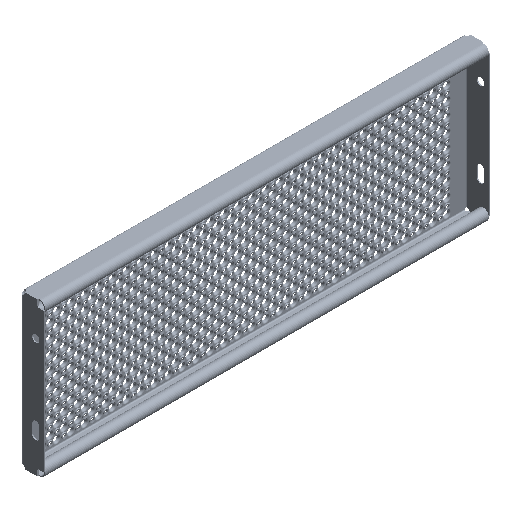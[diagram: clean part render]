
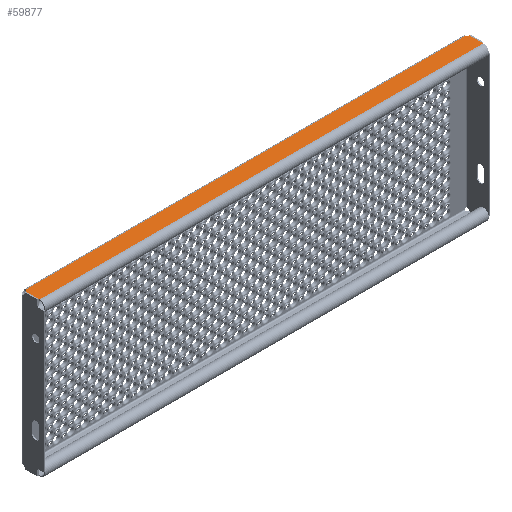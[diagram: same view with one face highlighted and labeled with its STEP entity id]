
A CAD part, isometric view. The second image highlights one B-rep face of the part: STEP entity #59877.
In plain terms, the highlighted planar face has unit normal (0, 0, 1).
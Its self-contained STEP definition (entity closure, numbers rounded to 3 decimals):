
#11545 = VERTEX_POINT ( 'NONE', #166480 ) ;
#37825 = CARTESIAN_POINT ( 'NONE',  ( -399., -2.288, 137.5 ) ) ;
#38327 = VERTEX_POINT ( 'NONE', #69103 ) ;
#47974 = VERTEX_POINT ( 'NONE', #81698 ) ;
#49693 = LINE ( 'NONE', #75837, #177074 ) ;
#59877 = ADVANCED_FACE ( 'NONE', ( #372692 ), #374631, .T. ) ;
#69103 = CARTESIAN_POINT ( 'NONE',  ( -397.99, -31.998, 137.5 ) ) ;
#75837 = CARTESIAN_POINT ( 'NONE',  ( -397.99, -31.998, 137.5 ) ) ;
#81698 = CARTESIAN_POINT ( 'NONE',  ( 394.302, -4., 137.5 ) ) ;
#87068 = VECTOR ( 'NONE', #380316, 1000. ) ;
#92039 = CARTESIAN_POINT ( 'NONE',  ( 397.99, -31.998, 137.5 ) ) ;
#99536 = EDGE_CURVE ( 'NONE', #11545, #47974, #310688, .T. ) ;
#106536 = EDGE_CURVE ( 'NONE', #38327, #310360, #49693, .T. ) ;
#125588 = ORIENTED_EDGE ( 'NONE', *, *, #233313, .F. ) ;
#133787 = CARTESIAN_POINT ( 'NONE',  ( 399., -2.288, 137.5 ) ) ;
#133964 = DIRECTION ( 'NONE',  ( 0., -1., 0. ) ) ;
#135785 = LINE ( 'NONE', #258016, #87068 ) ;
#142404 = ORIENTED_EDGE ( 'NONE', *, *, #256827, .T. ) ;
#151804 = EDGE_CURVE ( 'NONE', #309485, #38327, #356011, .T. ) ;
#156925 = CARTESIAN_POINT ( 'NONE',  ( -397.99, -7.185, 137.5 ) ) ;
#157868 = DIRECTION ( 'NONE',  ( 0., 0., -1. ) ) ;
#162066 = CARTESIAN_POINT ( 'NONE',  ( -399., 270.712, 137.5 ) ) ;
#164696 = ORIENTED_EDGE ( 'NONE', *, *, #251855, .T. ) ;
#166480 = CARTESIAN_POINT ( 'NONE',  ( 397.99, -7.185, 137.5 ) ) ;
#177074 = VECTOR ( 'NONE', #203902, 1000. ) ;
#181632 = LINE ( 'NONE', #264498, #294908 ) ;
#188151 = DIRECTION ( 'NONE',  ( 0., 0., -1. ) ) ;
#195505 = AXIS2_PLACEMENT_3D ( 'NONE', #133787, #157868, #280183 ) ;
#203902 = DIRECTION ( 'NONE',  ( 1., 0., 0. ) ) ;
#224285 = EDGE_LOOP ( 'NONE', ( #328902, #164696, #368207, #125588, #142404, #255653 ) ) ;
#233313 = EDGE_CURVE ( 'NONE', #394189, #47974, #181632, .T. ) ;
#251855 = EDGE_CURVE ( 'NONE', #310360, #11545, #135785, .T. ) ;
#255653 = ORIENTED_EDGE ( 'NONE', *, *, #151804, .T. ) ;
#256827 = EDGE_CURVE ( 'NONE', #394189, #309485, #264070, .T. ) ;
#256944 = AXIS2_PLACEMENT_3D ( 'NONE', #162066, #344586, #340675 ) ;
#258016 = CARTESIAN_POINT ( 'NONE',  ( 397.99, -7.185, 137.5 ) ) ;
#263753 = DIRECTION ( 'NONE',  ( 0., -1., 0. ) ) ;
#264070 = CIRCLE ( 'NONE', #372874, 5. ) ;
#264498 = CARTESIAN_POINT ( 'NONE',  ( -399., -4., 137.5 ) ) ;
#271921 = DIRECTION ( 'NONE',  ( 1., 0., 0. ) ) ;
#280183 = DIRECTION ( 'NONE',  ( 0., -1., 0. ) ) ;
#294908 = VECTOR ( 'NONE', #271921, 1000. ) ;
#298230 = CARTESIAN_POINT ( 'NONE',  ( -394.302, -4., 137.5 ) ) ;
#309485 = VERTEX_POINT ( 'NONE', #156925 ) ;
#310360 = VERTEX_POINT ( 'NONE', #92039 ) ;
#310688 = CIRCLE ( 'NONE', #195505, 5. ) ;
#328902 = ORIENTED_EDGE ( 'NONE', *, *, #106536, .T. ) ;
#340675 = DIRECTION ( 'NONE',  ( 0., -1., 0. ) ) ;
#344586 = DIRECTION ( 'NONE',  ( 0., 0., 1. ) ) ;
#350097 = CARTESIAN_POINT ( 'NONE',  ( -397.99, -7.185, 137.5 ) ) ;
#356011 = LINE ( 'NONE', #350097, #360172 ) ;
#360172 = VECTOR ( 'NONE', #263753, 1000. ) ;
#368207 = ORIENTED_EDGE ( 'NONE', *, *, #99536, .T. ) ;
#372692 = FACE_OUTER_BOUND ( 'NONE', #224285, .T. ) ;
#372874 = AXIS2_PLACEMENT_3D ( 'NONE', #37825, #188151, #133964 ) ;
#374631 = PLANE ( 'NONE',  #256944 ) ;
#380316 = DIRECTION ( 'NONE',  ( 0., 1., 0. ) ) ;
#394189 = VERTEX_POINT ( 'NONE', #298230 ) ;
